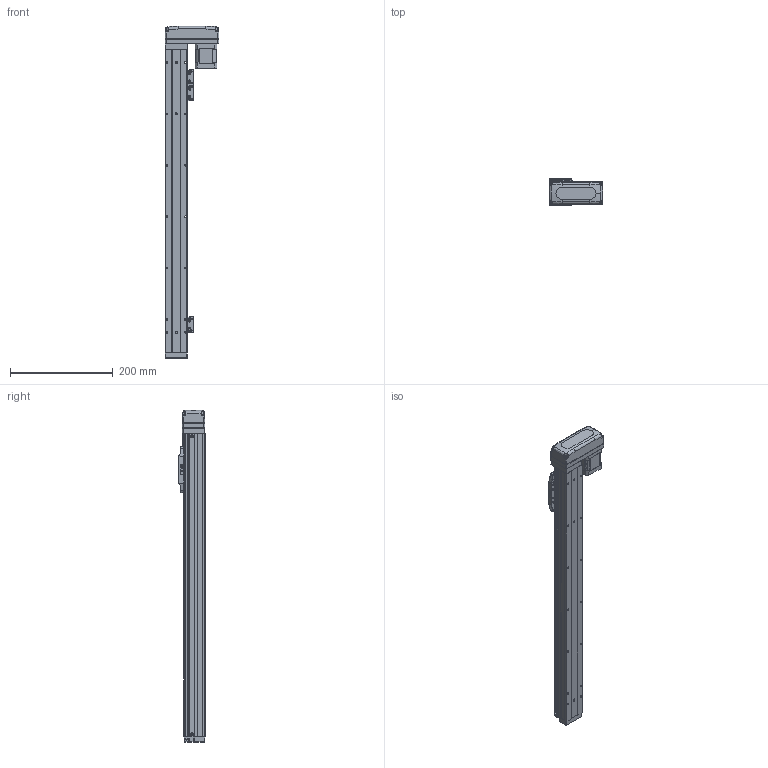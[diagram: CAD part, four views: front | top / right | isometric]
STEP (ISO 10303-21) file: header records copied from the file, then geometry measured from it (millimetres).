
FILE_DESCRIPTION (( 'STEP AP203' ), '1' );
FILE_NAME ('GTH4-450-BL-B42-C4.step', '2023-02-14T00:18:46', ( '微软用户' ), ( '微软中国' ), 'SwSTEP 2.0', 'SolidWorks 2020', '' );
FILE_SCHEMA (( 'CONFIG_CONTROL_DESIGN' ));
Length unit declared in the file: millimetre
Products named in the file (19): BTH50-023; BTH40-013; BTH40-001-50_BTH40-001-450; BTH50-024; GBT 70.3-M3℅6; BTH40-003; GBT 70.1-M3℅6; BTH40-027-1; BTH40-006; GBT96.1-2002 3×0.8; BTH50-026; BTH-M3X5X6; BTH40-022; 42CM06; GBT70.1-2000 M3×16; GBT 70.1-M2.5×6; GTH4-450-BL-B42-C4; BTH50-028; BTH40-004
Assembly tree (47 placements, depth 2):
  GTH4-450-BL-B42-C4
    BTH40-001-50_BTH40-001-450
    BTH40-003
    BTH40-006
    BTH-M3X5X6  x8
    GBT70.1-2000 M3×16  x4
    BTH50-028  x2
    BTH50-023  x3
    BTH50-024  x3
    GBT 70.1-M3℅6  x6
    GBT96.1-2002 3×0.8  x6
    BTH40-022
    GBT 70.1-M2.5×6  x2
    BTH40-004
    BTH40-013
    GBT 70.3-M3℅6  x4
    BTH40-027-1
    BTH50-026
    42CM06
Bounding box: 105 x 52 x 646 mm (x, y, z)
Volume: 1150904.5 mm3; surface area: 228784.9 mm2
Topology: 56 solids, 56 shells, 3319 faces, 7744 edges, 4634 vertices
Faces by surface type: cone 1488, plane 1076, cylinder 577, torus 124, bspline 42, sphere 12
Entity records: 77538 total; most frequent: CARTESIAN_POINT 13985, DIRECTION 13773, ORIENTED_EDGE 12134, EDGE_CURVE 6067, AXIS2_PLACEMENT_3D 5285, VERTEX_POINT 3621, LINE 3203, VECTOR 3203
